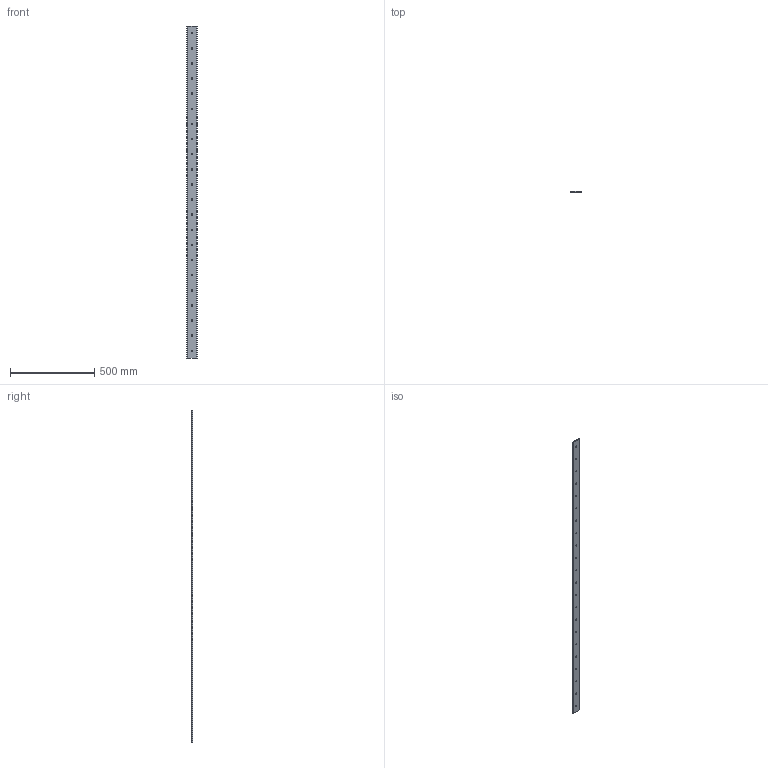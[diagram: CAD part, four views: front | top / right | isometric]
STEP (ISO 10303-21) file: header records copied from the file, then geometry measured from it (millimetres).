
FILE_DESCRIPTION(('STEP AP203'),'1');
FILE_NAME('slide_m60l1976p1.stp','2022-07-01T06:21:41',('TraceParts'),('TraceParts S.A.'),'Spatial InterOp 3D',' ',' ');
FILE_SCHEMA(('CONFIG_CONTROL_DESIGN'));
Length unit declared in the file: millimetre
Products named in the file (1): 1
Bounding box: 59.68 x 6.28 x 1976 mm (x, y, z)
Volume: 689102.3 mm3; surface area: 247147.5 mm2
Topology: 1 solids, 1 shells, 56 faces, 162 edges, 108 vertices
Faces by surface type: cylinder 48, plane 8
Entity records: 2034 total; most frequent: DIRECTION 372, CARTESIAN_POINT 327, ORIENTED_EDGE 324, EDGE_CURVE 162, AXIS2_PLACEMENT_3D 153, VERTEX_POINT 108, EDGE_LOOP 100, CIRCLE 96
